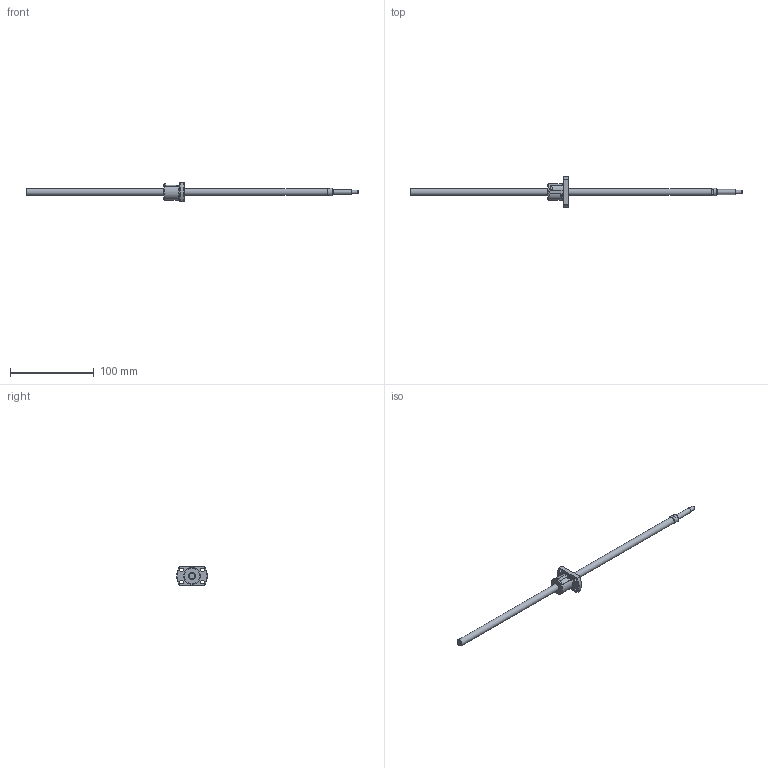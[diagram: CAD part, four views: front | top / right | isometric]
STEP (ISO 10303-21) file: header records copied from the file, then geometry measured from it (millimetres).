
FILE_DESCRIPTION(/* description */ ('STEP AP214'),/* implementation_level */ '2;1');
FILE_NAME(/* name */ 'SRT0802-356R397C7A0X(165Processing)',/* time_stamp */ '2026-08-04T19:57:46+02:00',/* author */ ('License CC BY-ND 4.0'),/* organization */ ('CADENAS'),/* preprocessor_version */ 'ST-DEVELOPER v20',/* originating_system */ 'PARTsolutions',/* authorisation */ ' ');
FILE_SCHEMA (('AUTOMOTIVE_DESIGN {1 0 10303 214 3 1 1}'));
Length unit declared in the file: millimetre
Products named in the file (3): SRT0802-356R397C7A0X(165Processing); SRT0802-356R430ACt7Processing34Shaft; SRT0802Nut
Assembly tree (2 placements, depth 2):
  SRT0802-356R397C7A0X(165Processing)
    SRT0802-356R430ACt7Processing34Shaft
    SRT0802Nut
Bounding box: 397 x 37 x 22 mm (x, y, z)
Volume: 27170.9 mm3; surface area: 13828.9 mm2
Topology: 2 solids, 2 shells, 62 faces, 154 edges, 101 vertices
Faces by surface type: plane 31, cylinder 17, cone 13, torus 1
Full cylindrical faces by diameter (mm): 1 x2, 4.5 x5, 6 x1, 8 x2, 9.5 x1, 19.7 x1, 20 x1
Entity records: 1751 total; most frequent: CARTESIAN_POINT 339, DIRECTION 288, ORIENTED_EDGE 236, AXIS2_PLACEMENT_3D 123, EDGE_CURVE 118, EDGE_LOOP 100, FACE_BOUND 100, VERTEX_POINT 88
